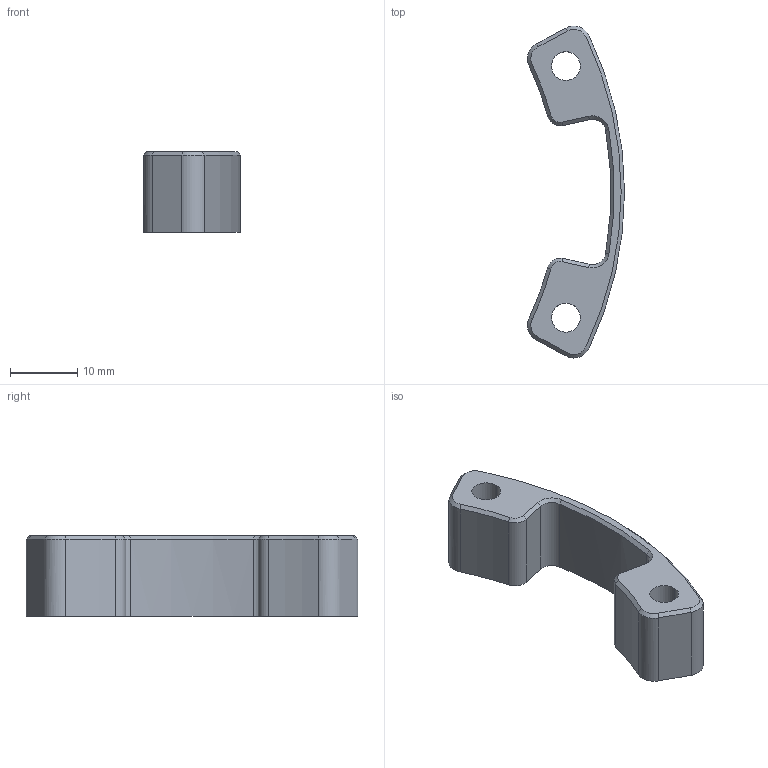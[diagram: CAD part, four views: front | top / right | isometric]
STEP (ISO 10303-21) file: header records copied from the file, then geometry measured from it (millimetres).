
FILE_DESCRIPTION((''),'2;1');
FILE_NAME('KD-D-203L_THIGH_ROLL_HARDSTOP_1','2025-07-12T16:17:15',('Administrator'),(''),'CREO PARAMETRIC BY PTC INC, 2022073','CREO PARAMETRIC BY PTC INC, 2022073','');
FILE_SCHEMA(('CONFIG_CONTROL_DESIGN'));
Length unit declared in the file: millimetre
Products named in the file (1): KD-D-203L_THIGH_ROLL_HARDSTOP_1
Bounding box: 14.45 x 49.46 x 12 mm (x, y, z)
Volume: 3112.4 mm3; surface area: 2478.5 mm2
Topology: 1 solids, 1 shells, 48 faces, 116 edges, 72 vertices
Faces by surface type: cylinder 20, cone 16, plane 12
Entity records: 1458 total; most frequent: DIRECTION 272, CARTESIAN_POINT 236, ORIENTED_EDGE 232, EDGE_CURVE 116, AXIS2_PLACEMENT_3D 108, VERTEX_POINT 72, CIRCLE 60, VECTOR 56
